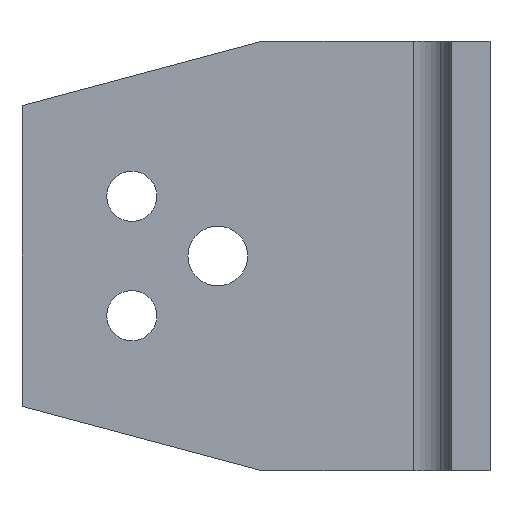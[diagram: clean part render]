
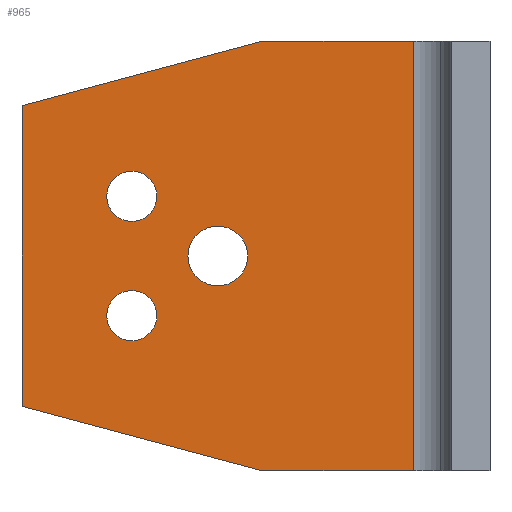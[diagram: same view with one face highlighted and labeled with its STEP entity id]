
A CAD part, left-side view. The second image highlights one B-rep face of the part: STEP entity #965.
In plain terms, the highlighted planar face has unit normal (-1, 0, 0).
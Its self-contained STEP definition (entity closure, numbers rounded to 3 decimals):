
#133=CARTESIAN_POINT('',(-20.,29.,51.25));
#134=VERTEX_POINT('',#133);
#143=CARTESIAN_POINT('',(-20.,29.,38.75));
#144=VERTEX_POINT('',#143);
#145=CARTESIAN_POINT('',(-20.,29.,45.));
#146=DIRECTION('',(1.0,0.0,0.0));
#147=DIRECTION('',(0.0,0.0,1.0));
#148=AXIS2_PLACEMENT_3D('',#145,#146,#147);
#149=CIRCLE('',#148,6.25);
#150=EDGE_CURVE('',#144,#134,#149,.T.);
#175=CARTESIAN_POINT('',(-20.0,47.,62.75));
#176=VERTEX_POINT('',#175);
#185=CARTESIAN_POINT('',(-20.0,47.,52.25));
#186=VERTEX_POINT('',#185);
#187=CARTESIAN_POINT('',(-20.0,47.,57.5));
#188=DIRECTION('',(1.0,0.0,0.0));
#189=DIRECTION('',(0.0,0.0,1.0));
#190=AXIS2_PLACEMENT_3D('',#187,#188,#189);
#191=CIRCLE('',#190,5.25);
#192=EDGE_CURVE('',#186,#176,#191,.T.);
#217=CARTESIAN_POINT('',(-20.0,47.,37.75));
#218=VERTEX_POINT('',#217);
#227=CARTESIAN_POINT('',(-20.0,47.,27.25));
#228=VERTEX_POINT('',#227);
#229=CARTESIAN_POINT('',(-20.0,47.,32.5));
#230=DIRECTION('',(1.0,0.0,0.0));
#231=DIRECTION('',(0.0,0.0,1.0));
#232=AXIS2_PLACEMENT_3D('',#229,#230,#231);
#233=CIRCLE('',#232,5.25);
#234=EDGE_CURVE('',#228,#218,#233,.T.);
#259=CARTESIAN_POINT('',(-20.,70.,13.5));
#260=VERTEX_POINT('',#259);
#261=CARTESIAN_POINT('',(-20.,19.617,0.0));
#262=VERTEX_POINT('',#261);
#263=CARTESIAN_POINT('',(-20.,70.,13.5));
#264=DIRECTION('',(0.,-0.966,-0.259));
#265=VECTOR('',#264,52.16);
#266=LINE('',#263,#265);
#267=EDGE_CURVE('',#260,#262,#266,.T.);
#299=CARTESIAN_POINT('',(-20.,19.617,90.0));
#300=VERTEX_POINT('',#299);
#301=CARTESIAN_POINT('',(-20.,70.,76.5));
#302=VERTEX_POINT('',#301);
#303=CARTESIAN_POINT('',(-20.,19.617,90.0));
#304=DIRECTION('',(0.,0.966,-0.259));
#305=VECTOR('',#304,52.16);
#306=LINE('',#303,#305);
#307=EDGE_CURVE('',#300,#302,#306,.T.);
#379=CARTESIAN_POINT('',(-20.0,-12.,0.0));
#380=VERTEX_POINT('',#379);
#388=CARTESIAN_POINT('',(-20.,19.617,0.0));
#389=DIRECTION('',(0.0,-1.0,0.0));
#390=VECTOR('',#389,31.617);
#391=LINE('',#388,#390);
#392=EDGE_CURVE('',#262,#380,#391,.T.);
#403=CARTESIAN_POINT('',(-20.0,-12.,90.0));
#404=VERTEX_POINT('',#403);
#405=CARTESIAN_POINT('',(-20.0,-12.,90.0));
#406=DIRECTION('',(0.0,1.0,0.0));
#407=VECTOR('',#406,31.617);
#408=LINE('',#405,#407);
#409=EDGE_CURVE('',#404,#300,#408,.T.);
#466=CARTESIAN_POINT('',(-20.,70.,13.5));
#467=DIRECTION('',(0.0,0.0,1.0));
#468=VECTOR('',#467,63.0);
#469=LINE('',#466,#468);
#470=EDGE_CURVE('',#260,#302,#469,.T.);
#496=CARTESIAN_POINT('',(-20.0,47.,32.5));
#497=DIRECTION('',(1.0,0.0,0.0));
#498=DIRECTION('',(0.0,0.0,1.0));
#499=AXIS2_PLACEMENT_3D('',#496,#497,#498);
#500=CIRCLE('',#499,5.25);
#501=EDGE_CURVE('',#218,#228,#500,.T.);
#520=CARTESIAN_POINT('',(-20.0,47.,57.5));
#521=DIRECTION('',(1.0,0.0,0.0));
#522=DIRECTION('',(0.0,0.0,1.0));
#523=AXIS2_PLACEMENT_3D('',#520,#521,#522);
#524=CIRCLE('',#523,5.25);
#525=EDGE_CURVE('',#176,#186,#524,.T.);
#544=CARTESIAN_POINT('',(-20.,29.,45.));
#545=DIRECTION('',(1.0,0.0,0.0));
#546=DIRECTION('',(0.0,0.0,1.0));
#547=AXIS2_PLACEMENT_3D('',#544,#545,#546);
#548=CIRCLE('',#547,6.25);
#549=EDGE_CURVE('',#134,#144,#548,.T.);
#817=CARTESIAN_POINT('',(-20.0,-12.,90.0));
#818=DIRECTION('',(0.0,0.0,-1.0));
#819=VECTOR('',#818,90.0);
#820=LINE('',#817,#819);
#821=EDGE_CURVE('',#404,#380,#820,.T.);
#940=CARTESIAN_POINT('',(-20.0,-20.0,0.0));
#941=DIRECTION('',(-1.0,0.0,0.0));
#942=DIRECTION('',(0.0,0.0,1.0));
#943=AXIS2_PLACEMENT_3D('',#940,#941,#942);
#944=PLANE('',#943);
#945=ORIENTED_EDGE('',*,*,#267,.T.);
#946=ORIENTED_EDGE('',*,*,#392,.T.);
#947=ORIENTED_EDGE('',*,*,#821,.F.);
#948=ORIENTED_EDGE('',*,*,#409,.T.);
#949=ORIENTED_EDGE('',*,*,#307,.T.);
#950=ORIENTED_EDGE('',*,*,#470,.F.);
#951=EDGE_LOOP('',(#945,#946,#947,#948,#949,#950));
#952=FACE_OUTER_BOUND('',#951,.T.);
#953=ORIENTED_EDGE('',*,*,#234,.T.);
#954=ORIENTED_EDGE('',*,*,#501,.T.);
#955=EDGE_LOOP('',(#953,#954));
#956=FACE_BOUND('',#955,.T.);
#957=ORIENTED_EDGE('',*,*,#192,.T.);
#958=ORIENTED_EDGE('',*,*,#525,.T.);
#959=EDGE_LOOP('',(#957,#958));
#960=FACE_BOUND('',#959,.T.);
#961=ORIENTED_EDGE('',*,*,#150,.T.);
#962=ORIENTED_EDGE('',*,*,#549,.T.);
#963=EDGE_LOOP('',(#961,#962));
#964=FACE_BOUND('',#963,.T.);
#965=ADVANCED_FACE('',(#952,#956,#960,#964),#944,.T.);
